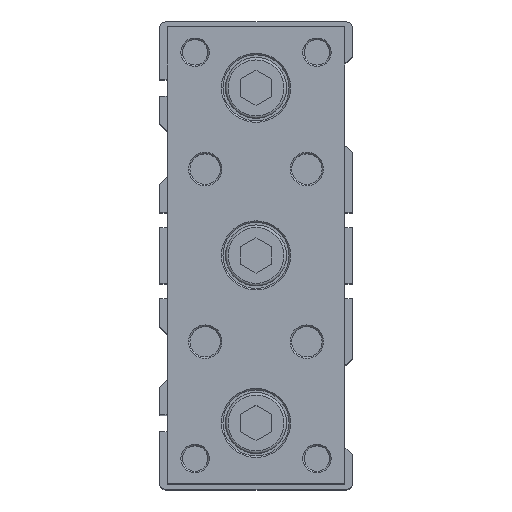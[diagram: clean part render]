
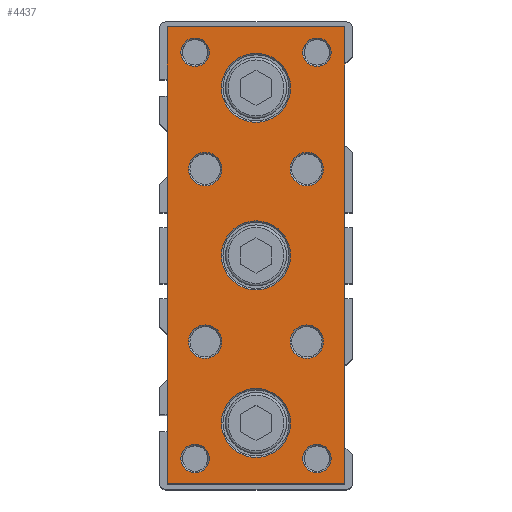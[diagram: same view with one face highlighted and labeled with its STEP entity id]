
A CAD part, top view. The second image highlights one B-rep face of the part: STEP entity #4437.
In plain terms, the highlighted planar face has unit normal (0, 0, 1).
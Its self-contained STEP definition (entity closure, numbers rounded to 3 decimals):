
#4080=CARTESIAN_POINT('',(17.5,45.0,14.));
#4081=VERTEX_POINT('',#4080);
#4082=CARTESIAN_POINT('',(17.5,-45.0,14.));
#4083=VERTEX_POINT('',#4082);
#4084=CARTESIAN_POINT('',(17.5,45.0,14.));
#4085=DIRECTION('',(0.0,-1.0,0.0));
#4086=VECTOR('',#4085,90.0);
#4087=LINE('',#4084,#4086);
#4088=EDGE_CURVE('',#4081,#4083,#4087,.T.);
#4214=CARTESIAN_POINT('',(-17.5,-45.0,14.));
#4215=VERTEX_POINT('',#4214);
#4216=CARTESIAN_POINT('',(-17.5,45.0,14.));
#4217=VERTEX_POINT('',#4216);
#4218=CARTESIAN_POINT('',(-17.5,-45.0,14.));
#4219=DIRECTION('',(0.0,1.0,0.0));
#4220=VECTOR('',#4219,90.0);
#4221=LINE('',#4218,#4220);
#4222=EDGE_CURVE('',#4215,#4217,#4221,.T.);
#4291=CARTESIAN_POINT('',(6.8,0.,14.));
#4292=VERTEX_POINT('',#4291);
#4293=CARTESIAN_POINT('',(0.0,0.0,14.));
#4294=DIRECTION('',(0.0,0.0,1.0));
#4295=DIRECTION('',(-1.0,0.0,0.0));
#4296=AXIS2_PLACEMENT_3D('',#4293,#4294,#4295);
#4297=CIRCLE('',#4296,6.8);
#4298=EDGE_CURVE('',#4292,#4292,#4297,.T.);
#4303=CARTESIAN_POINT('',(0.0,0.,14.));
#4304=DIRECTION('',(0.0,0.0,1.0));
#4305=DIRECTION('',(1.0,0.0,0.0));
#4306=AXIS2_PLACEMENT_3D('',#4303,#4304,#4305);
#4307=PLANE('',#4306);
#4308=ORIENTED_EDGE('',*,*,#4088,.F.);
#4309=CARTESIAN_POINT('',(-17.5,45.0,14.));
#4310=DIRECTION('',(1.0,0.0,0.0));
#4311=VECTOR('',#4310,35.0);
#4312=LINE('',#4309,#4311);
#4313=EDGE_CURVE('',#4217,#4081,#4312,.T.);
#4314=ORIENTED_EDGE('',*,*,#4313,.F.);
#4315=ORIENTED_EDGE('',*,*,#4222,.F.);
#4316=CARTESIAN_POINT('',(17.5,-45.0,14.));
#4317=DIRECTION('',(-1.0,0.0,0.0));
#4318=VECTOR('',#4317,35.0);
#4319=LINE('',#4316,#4318);
#4320=EDGE_CURVE('',#4083,#4215,#4319,.T.);
#4321=ORIENTED_EDGE('',*,*,#4320,.F.);
#4322=EDGE_LOOP('',(#4308,#4314,#4315,#4321));
#4323=FACE_OUTER_BOUND('',#4322,.T.);
#4324=CARTESIAN_POINT('',(6.8,-33.0,14.));
#4325=VERTEX_POINT('',#4324);
#4326=CARTESIAN_POINT('',(0.0,-33.0,14.));
#4327=DIRECTION('',(0.0,0.0,1.0));
#4328=DIRECTION('',(-1.0,0.0,0.0));
#4329=AXIS2_PLACEMENT_3D('',#4326,#4327,#4328);
#4330=CIRCLE('',#4329,6.8);
#4331=EDGE_CURVE('',#4325,#4325,#4330,.T.);
#4332=ORIENTED_EDGE('',*,*,#4331,.F.);
#4333=EDGE_LOOP('',(#4332));
#4334=FACE_BOUND('',#4333,.T.);
#4335=CARTESIAN_POINT('',(14.8,-40.0,14.));
#4336=VERTEX_POINT('',#4335);
#4337=CARTESIAN_POINT('',(12.,-40.0,14.));
#4338=DIRECTION('',(0.0,0.0,1.0));
#4339=DIRECTION('',(-1.0,0.0,0.0));
#4340=AXIS2_PLACEMENT_3D('',#4337,#4338,#4339);
#4341=CIRCLE('',#4340,2.8);
#4342=EDGE_CURVE('',#4336,#4336,#4341,.T.);
#4343=ORIENTED_EDGE('',*,*,#4342,.F.);
#4344=EDGE_LOOP('',(#4343));
#4345=FACE_BOUND('',#4344,.T.);
#4346=CARTESIAN_POINT('',(14.8,40.0,14.));
#4347=VERTEX_POINT('',#4346);
#4348=CARTESIAN_POINT('',(12.,40.0,14.));
#4349=DIRECTION('',(0.0,0.0,1.0));
#4350=DIRECTION('',(-1.0,0.0,0.0));
#4351=AXIS2_PLACEMENT_3D('',#4348,#4349,#4350);
#4352=CIRCLE('',#4351,2.8);
#4353=EDGE_CURVE('',#4347,#4347,#4352,.T.);
#4354=ORIENTED_EDGE('',*,*,#4353,.F.);
#4355=EDGE_LOOP('',(#4354));
#4356=FACE_BOUND('',#4355,.T.);
#4357=CARTESIAN_POINT('',(-9.2,-40.0,14.));
#4358=VERTEX_POINT('',#4357);
#4359=CARTESIAN_POINT('',(-12.,-40.0,14.));
#4360=DIRECTION('',(0.0,0.0,1.0));
#4361=DIRECTION('',(-1.0,0.0,0.0));
#4362=AXIS2_PLACEMENT_3D('',#4359,#4360,#4361);
#4363=CIRCLE('',#4362,2.8);
#4364=EDGE_CURVE('',#4358,#4358,#4363,.T.);
#4365=ORIENTED_EDGE('',*,*,#4364,.F.);
#4366=EDGE_LOOP('',(#4365));
#4367=FACE_BOUND('',#4366,.T.);
#4368=CARTESIAN_POINT('',(-6.7,17.0,14.));
#4369=VERTEX_POINT('',#4368);
#4370=CARTESIAN_POINT('',(-10.0,17.0,14.));
#4371=DIRECTION('',(0.0,0.0,1.0));
#4372=DIRECTION('',(-1.0,0.0,0.0));
#4373=AXIS2_PLACEMENT_3D('',#4370,#4371,#4372);
#4374=CIRCLE('',#4373,3.3);
#4375=EDGE_CURVE('',#4369,#4369,#4374,.T.);
#4376=ORIENTED_EDGE('',*,*,#4375,.F.);
#4377=EDGE_LOOP('',(#4376));
#4378=FACE_BOUND('',#4377,.T.);
#4379=CARTESIAN_POINT('',(-9.2,40.0,14.));
#4380=VERTEX_POINT('',#4379);
#4381=CARTESIAN_POINT('',(-12.,40.0,14.));
#4382=DIRECTION('',(0.0,0.0,1.0));
#4383=DIRECTION('',(-1.0,0.0,0.0));
#4384=AXIS2_PLACEMENT_3D('',#4381,#4382,#4383);
#4385=CIRCLE('',#4384,2.8);
#4386=EDGE_CURVE('',#4380,#4380,#4385,.T.);
#4387=ORIENTED_EDGE('',*,*,#4386,.F.);
#4388=EDGE_LOOP('',(#4387));
#4389=FACE_BOUND('',#4388,.T.);
#4390=CARTESIAN_POINT('',(-6.7,-17.0,14.));
#4391=VERTEX_POINT('',#4390);
#4392=CARTESIAN_POINT('',(-10.0,-17.0,14.));
#4393=DIRECTION('',(0.0,0.0,1.0));
#4394=DIRECTION('',(-1.0,0.0,0.0));
#4395=AXIS2_PLACEMENT_3D('',#4392,#4393,#4394);
#4396=CIRCLE('',#4395,3.3);
#4397=EDGE_CURVE('',#4391,#4391,#4396,.T.);
#4398=ORIENTED_EDGE('',*,*,#4397,.F.);
#4399=EDGE_LOOP('',(#4398));
#4400=FACE_BOUND('',#4399,.T.);
#4401=CARTESIAN_POINT('',(13.3,-17.0,14.));
#4402=VERTEX_POINT('',#4401);
#4403=CARTESIAN_POINT('',(10.0,-17.0,14.));
#4404=DIRECTION('',(0.0,0.0,1.0));
#4405=DIRECTION('',(-1.0,0.0,0.0));
#4406=AXIS2_PLACEMENT_3D('',#4403,#4404,#4405);
#4407=CIRCLE('',#4406,3.3);
#4408=EDGE_CURVE('',#4402,#4402,#4407,.T.);
#4409=ORIENTED_EDGE('',*,*,#4408,.F.);
#4410=EDGE_LOOP('',(#4409));
#4411=FACE_BOUND('',#4410,.T.);
#4412=CARTESIAN_POINT('',(13.3,17.0,14.));
#4413=VERTEX_POINT('',#4412);
#4414=CARTESIAN_POINT('',(10.0,17.0,14.));
#4415=DIRECTION('',(0.0,0.0,1.0));
#4416=DIRECTION('',(-1.0,0.0,0.0));
#4417=AXIS2_PLACEMENT_3D('',#4414,#4415,#4416);
#4418=CIRCLE('',#4417,3.3);
#4419=EDGE_CURVE('',#4413,#4413,#4418,.T.);
#4420=ORIENTED_EDGE('',*,*,#4419,.F.);
#4421=EDGE_LOOP('',(#4420));
#4422=FACE_BOUND('',#4421,.T.);
#4423=CARTESIAN_POINT('',(6.8,33.0,14.));
#4424=VERTEX_POINT('',#4423);
#4425=CARTESIAN_POINT('',(0.0,33.0,14.));
#4426=DIRECTION('',(0.0,0.0,1.0));
#4427=DIRECTION('',(-1.0,0.0,0.0));
#4428=AXIS2_PLACEMENT_3D('',#4425,#4426,#4427);
#4429=CIRCLE('',#4428,6.8);
#4430=EDGE_CURVE('',#4424,#4424,#4429,.T.);
#4431=ORIENTED_EDGE('',*,*,#4430,.F.);
#4432=EDGE_LOOP('',(#4431));
#4433=FACE_BOUND('',#4432,.T.);
#4434=ORIENTED_EDGE('',*,*,#4298,.F.);
#4435=EDGE_LOOP('',(#4434));
#4436=FACE_BOUND('',#4435,.T.);
#4437=ADVANCED_FACE('',(#4323,#4334,#4345,#4356,#4367,#4378,#4389,#4400,#4411,#4422,#4433,#4436),#4307,.T.);
